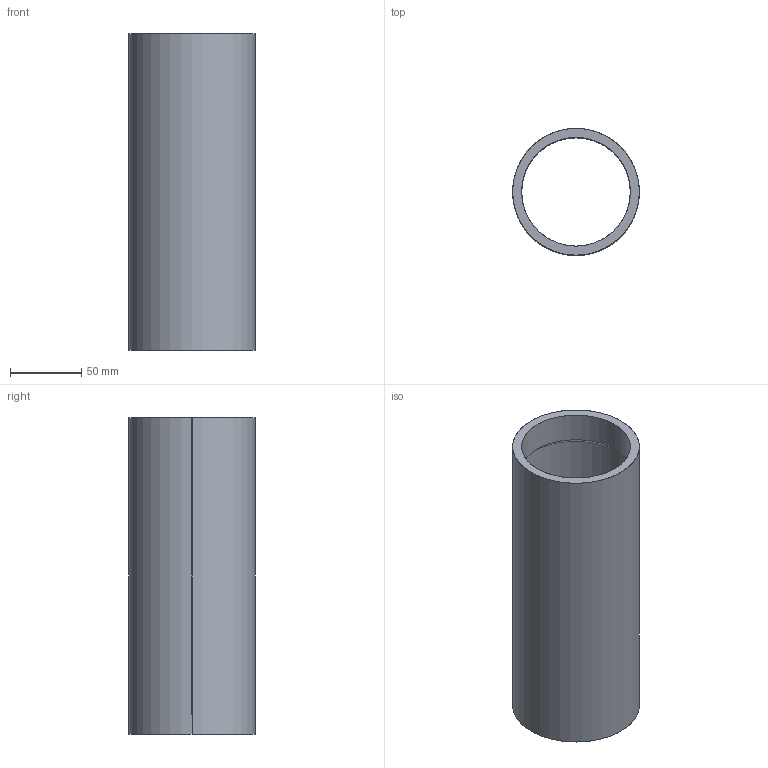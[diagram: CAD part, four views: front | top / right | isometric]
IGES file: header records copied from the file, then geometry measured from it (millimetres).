
Start section: SolidWorks IGES file using analytic representation for surfaces
Global section: file name: C:\Users\Jonathan\Dropbox\BR-Engineering\Models\WTE-3-X1A-PUBLIC\WTE3-M-TUBE-SHORT-R1.IGS; native system: SolidWorks 2014; preprocessor: SolidWorks 2014; author: Jonathan; date: 170418.082834; units: millimetre
Bounding box: 88.9 x 88.9 x 222.25 mm (x, y, z)
Surface area: 124289.2 mm2 (no closed solid volume)
Topology: 0 solids, 0 shells, 14 faces, 304 edges, 304 vertices
Faces by surface type: revolution 12, bspline 2
